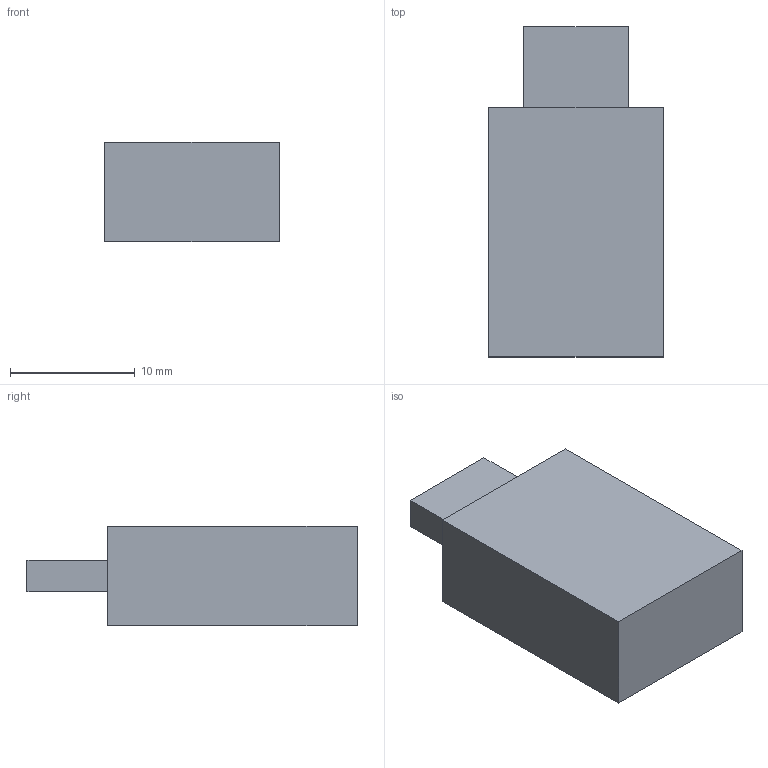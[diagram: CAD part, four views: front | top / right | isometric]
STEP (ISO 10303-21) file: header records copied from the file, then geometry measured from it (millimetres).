
FILE_DESCRIPTION(('Open CASCADE Model'),'2;1');
FILE_NAME('Open CASCADE Shape Model','2026-10-16T20:10:47',('Author'),( 'Open CASCADE'),'Open CASCADE STEP processor 7.9','Open CASCADE 7.9' ,'Unknown');
FILE_SCHEMA(('AUTOMOTIVE_DESIGN { 1 0 10303 214 1 1 1 1 }'));
Length unit declared in the file: millimetre
Products named in the file (1): Open CASCADE STEP translator 7.9 74
Bounding box: 14 x 26.5 x 8 mm (x, y, z)
Volume: 2379.8 mm3; surface area: 1246.5 mm2
Topology: 1 solids, 1 shells, 11 faces, 24 edges, 16 vertices
Faces by surface type: plane 11
Entity records: 620 total; most frequent: CARTESIAN_POINT 100, DIRECTION 96, LINE 72, VECTOR 72, ORIENTED_EDGE 48, PCURVE 48, DEFINITIONAL_REPRESENTATION 48, EDGE_CURVE 24
